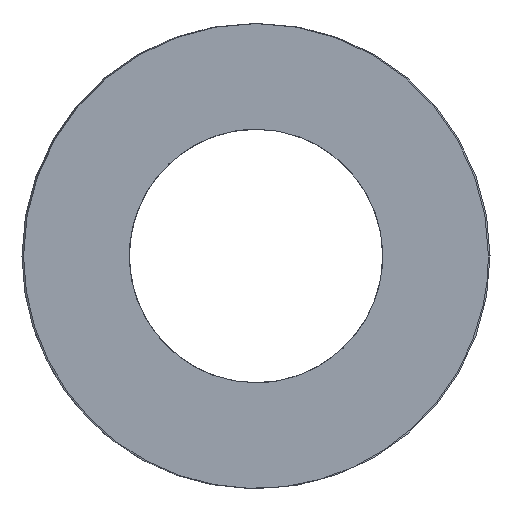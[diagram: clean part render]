
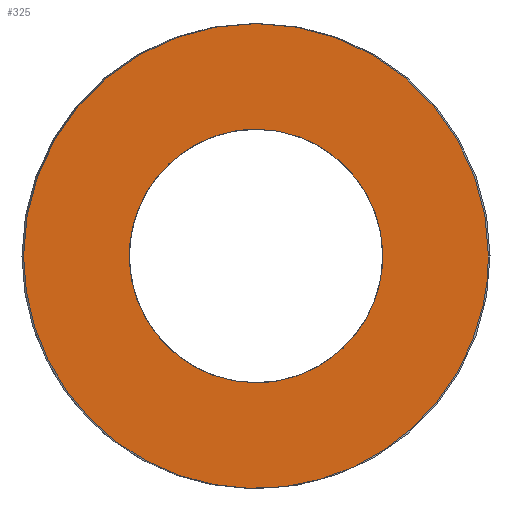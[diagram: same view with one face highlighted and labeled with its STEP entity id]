
A CAD part, left-side view. The second image highlights one B-rep face of the part: STEP entity #325.
In plain terms, the highlighted planar face has unit normal (-1, 0, 0).
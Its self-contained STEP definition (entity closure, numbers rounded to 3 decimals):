
#63=CARTESIAN_POINT('Vertex',(0.,24.4,0.)) ;
#89=CARTESIAN_POINT('Vertex',(0.,-24.4,0.)) ;
#93=CARTESIAN_POINT('Control Point',(0.,24.4,0.)) ;
#94=CARTESIAN_POINT('Control Point',(0.,24.4,-3.833)) ;
#95=CARTESIAN_POINT('Control Point',(0.,23.647,-7.665)) ;
#96=CARTESIAN_POINT('Control Point',(0.,22.142,-11.301)) ;
#97=CARTESIAN_POINT('Control Point',(0.,17.786,-17.786)) ;
#98=CARTESIAN_POINT('Control Point',(0.,11.301,-22.142)) ;
#99=CARTESIAN_POINT('Control Point',(0.,7.665,-23.647)) ;
#100=CARTESIAN_POINT('Control Point',(0.,0.,-25.153)) ;
#101=CARTESIAN_POINT('Control Point',(0.,-7.665,-23.647)) ;
#102=CARTESIAN_POINT('Control Point',(0.,-11.301,-22.142)) ;
#103=CARTESIAN_POINT('Control Point',(0.,-17.786,-17.786)) ;
#104=CARTESIAN_POINT('Control Point',(0.,-22.142,-11.301)) ;
#105=CARTESIAN_POINT('Control Point',(0.,-23.647,-7.665)) ;
#106=CARTESIAN_POINT('Control Point',(0.,-24.4,-3.833)) ;
#107=CARTESIAN_POINT('Control Point',(0.,-24.4,0.)) ;
#121=CARTESIAN_POINT('Axis2P3D Location',(0.,0.,0.)) ;
#256=CARTESIAN_POINT('Axis2P3D Location',(0.,12.2,0.)) ;
#266=CARTESIAN_POINT('Control Point',(0.,0.,-13.3)) ;
#267=CARTESIAN_POINT('Control Point',(0.,1.251,-13.3)) ;
#268=CARTESIAN_POINT('Control Point',(0.,2.501,-13.153)) ;
#269=CARTESIAN_POINT('Control Point',(0.,3.729,-12.859)) ;
#270=CARTESIAN_POINT('Control Point',(0.,6.092,-11.988)) ;
#271=CARTESIAN_POINT('Control Point',(0.,8.189,-10.593)) ;
#272=CARTESIAN_POINT('Control Point',(0.,9.15,-9.774)) ;
#273=CARTESIAN_POINT('Control Point',(0.,10.862,-7.927)) ;
#274=CARTESIAN_POINT('Control Point',(0.,12.099,-5.734)) ;
#275=CARTESIAN_POINT('Control Point',(0.,12.585,-4.569)) ;
#276=CARTESIAN_POINT('Control Point',(0.,13.275,-2.146)) ;
#277=CARTESIAN_POINT('Control Point',(0.,13.384,0.37)) ;
#278=CARTESIAN_POINT('Control Point',(0.,13.289,1.628)) ;
#279=CARTESIAN_POINT('Control Point',(0.,12.807,4.1)) ;
#280=CARTESIAN_POINT('Control Point',(0.,11.764,6.393)) ;
#281=CARTESIAN_POINT('Control Point',(0.,11.11,7.472)) ;
#282=CARTESIAN_POINT('Control Point',(0.,9.56,9.457)) ;
#283=CARTESIAN_POINT('Control Point',(0.,7.591,11.029)) ;
#284=CARTESIAN_POINT('Control Point',(0.,6.519,11.694)) ;
#285=CARTESIAN_POINT('Control Point',(0.,4.601,12.592)) ;
#286=CARTESIAN_POINT('Control Point',(0.,2.551,13.095)) ;
#287=CARTESIAN_POINT('Control Point',(0.,1.706,13.232)) ;
#288=CARTESIAN_POINT('Control Point',(0.,0.853,13.3)) ;
#289=CARTESIAN_POINT('Control Point',(0.,0.,13.3)) ;
#290=CARTESIAN_POINT('Vertex',(0.,0.,-13.3)) ;
#292=CARTESIAN_POINT('Vertex',(0.,0.,13.3)) ;
#296=CARTESIAN_POINT('Control Point',(0.,0.,13.3)) ;
#297=CARTESIAN_POINT('Control Point',(0.,-1.251,13.3)) ;
#298=CARTESIAN_POINT('Control Point',(0.,-2.501,13.153)) ;
#299=CARTESIAN_POINT('Control Point',(0.,-3.729,12.859)) ;
#300=CARTESIAN_POINT('Control Point',(0.,-6.092,11.988)) ;
#301=CARTESIAN_POINT('Control Point',(0.,-8.189,10.593)) ;
#302=CARTESIAN_POINT('Control Point',(0.,-9.15,9.774)) ;
#303=CARTESIAN_POINT('Control Point',(0.,-10.862,7.927)) ;
#304=CARTESIAN_POINT('Control Point',(0.,-12.099,5.734)) ;
#305=CARTESIAN_POINT('Control Point',(0.,-12.585,4.569)) ;
#306=CARTESIAN_POINT('Control Point',(0.,-13.275,2.146)) ;
#307=CARTESIAN_POINT('Control Point',(0.,-13.384,-0.37)) ;
#308=CARTESIAN_POINT('Control Point',(0.,-13.289,-1.628)) ;
#309=CARTESIAN_POINT('Control Point',(0.,-12.807,-4.1)) ;
#310=CARTESIAN_POINT('Control Point',(0.,-11.764,-6.393)) ;
#311=CARTESIAN_POINT('Control Point',(0.,-11.11,-7.472)) ;
#312=CARTESIAN_POINT('Control Point',(0.,-9.56,-9.457)) ;
#313=CARTESIAN_POINT('Control Point',(0.,-7.591,-11.029)) ;
#314=CARTESIAN_POINT('Control Point',(0.,-6.519,-11.694)) ;
#315=CARTESIAN_POINT('Control Point',(0.,-4.601,-12.592)) ;
#316=CARTESIAN_POINT('Control Point',(0.,-2.551,-13.095)) ;
#317=CARTESIAN_POINT('Control Point',(0.,-1.706,-13.232)) ;
#318=CARTESIAN_POINT('Control Point',(0.,-0.853,-13.3)) ;
#319=CARTESIAN_POINT('Control Point',(0.,0.,-13.3)) ;
#122=DIRECTION('Axis2P3D Direction',(1.,-0.,0.)) ;
#257=DIRECTION('Axis2P3D Direction',(-1.,0.,0.)) ;
#258=DIRECTION('Axis2P3D XDirection',(0.,1.,0.)) ;
#123=AXIS2_PLACEMENT_3D('Circle Axis2P3D',#121,#122,$) ;
#259=AXIS2_PLACEMENT_3D('Plane Axis2P3D',#256,#257,#258) ;
#262=ORIENTED_EDGE('',*,*,#108,.T.) ;
#263=ORIENTED_EDGE('',*,*,#125,.T.) ;
#322=ORIENTED_EDGE('',*,*,#294,.T.) ;
#323=ORIENTED_EDGE('',*,*,#320,.T.) ;
#324=FACE_BOUND('',#321,.T.) ;
#325=ADVANCED_FACE('392-B50-127',(#264,#324),#260,.T.) ;
#92=B_SPLINE_CURVE_WITH_KNOTS('',5,(#93,#94,#95,#96,#97,#98,#99,#100,#101,#102,#103,#104,#105,#106,#107),.UNSPECIFIED.,.F.,.U.,(6,3,3,3,6),(-38.327,-19.164,0.,19.164,38.327),.UNSPECIFIED.) ;
#265=B_SPLINE_CURVE_WITH_KNOTS('',5,(#266,#267,#268,#269,#270,#271,#272,#273,#274,#275,#276,#277,#278,#279,#280,#281,#282,#283,#284,#285,#286,#287,#288,#289),.UNSPECIFIED.,.F.,.U.,(6,3,3,3,3,3,3,6),(0.,8.843,17.686,26.53,35.373,44.216,53.059,59.09),.UNSPECIFIED.) ;
#295=B_SPLINE_CURVE_WITH_KNOTS('',5,(#296,#297,#298,#299,#300,#301,#302,#303,#304,#305,#306,#307,#308,#309,#310,#311,#312,#313,#314,#315,#316,#317,#318,#319),.UNSPECIFIED.,.F.,.U.,(6,3,3,3,3,3,3,6),(0.,8.843,17.686,26.53,35.373,44.216,53.059,59.09),.UNSPECIFIED.) ;
#124=CIRCLE('generated circle',#123,24.4) ;
#108=EDGE_CURVE('',#64,#90,#92,.T.) ;
#125=EDGE_CURVE('',#90,#64,#124,.F.) ;
#294=EDGE_CURVE('',#291,#293,#265,.T.) ;
#320=EDGE_CURVE('',#293,#291,#295,.T.) ;
#261=EDGE_LOOP('',(#262,#263)) ;
#321=EDGE_LOOP('',(#322,#323)) ;
#264=FACE_OUTER_BOUND('',#261,.T.) ;
#260=PLANE('Plane',#259) ;
#64=VERTEX_POINT('',#63) ;
#90=VERTEX_POINT('',#89) ;
#291=VERTEX_POINT('',#290) ;
#293=VERTEX_POINT('',#292) ;
